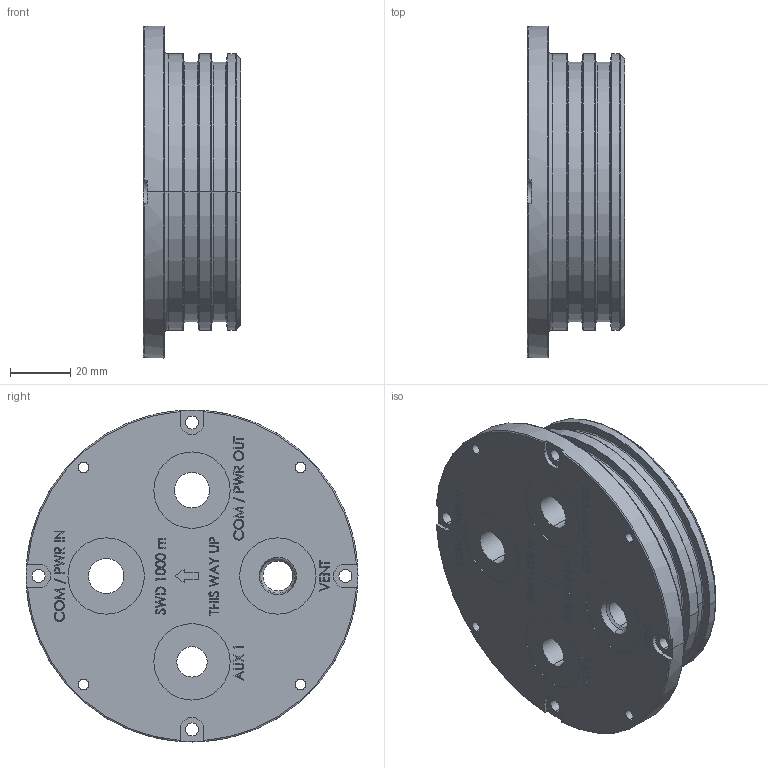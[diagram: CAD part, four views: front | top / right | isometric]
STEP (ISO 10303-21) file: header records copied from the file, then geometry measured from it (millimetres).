
FILE_DESCRIPTION (( 'STEP AP203' ), '1' );
FILE_NAME ('100221989-2 Housing A Connector Endcap, Double Ethernet_B.STEP', '2023-09-19T18:45:28', ( '' ), ( '' ), 'SwSTEP 2.0', 'SolidWorks 2023', '' );
FILE_SCHEMA (( 'CONFIG_CONTROL_DESIGN' ));
Length unit declared in the file: inch
Products named in the file (1): 100221989-2 Housing A Connector Endcap, Double Ethernet_B
Bounding box: 32.38 x 110.49 x 110.49 mm (x, y, z)
Volume: 152290.1 mm3; surface area: 36883.2 mm2
Topology: 1 solids, 1 shells, 678 faces, 1779 edges, 1164 vertices
Faces by surface type: plane 399, bspline 164, cylinder 59, cone 30, torus 26
Entity records: 31380 total; most frequent: CARTESIAN_POINT 15884, ORIENTED_EDGE 3542, DIRECTION 2488, EDGE_CURVE 1771, VERTEX_POINT 1164, LINE 1070, VECTOR 1070, EDGE_LOOP 771
